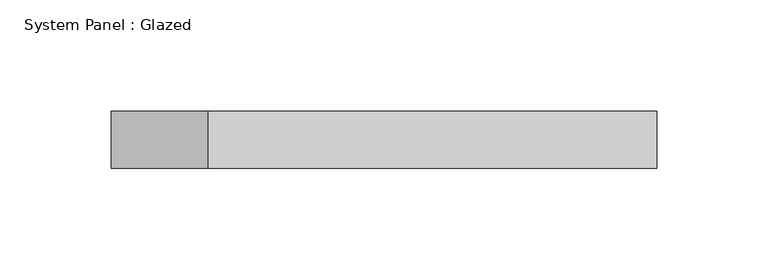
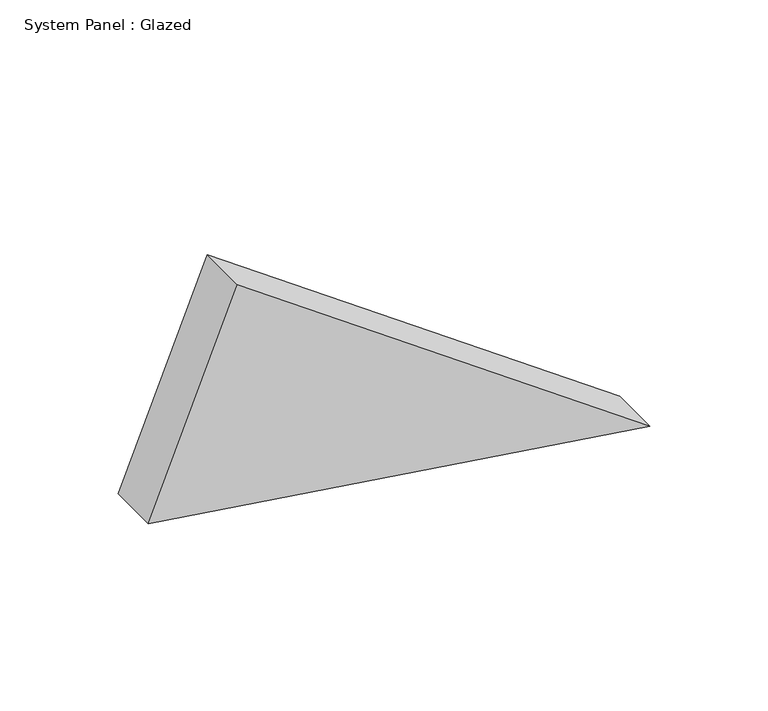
"""IFC4 building model written with IfcOpenShell, lengths in millimetres: plate geometry, System Panel : Glazed."""

import ifcopenshell
import ifcopenshell.guid

model = None  # the IFC model being written
_history = None  # IfcOwnerHistory: only IFC2X3 demands one
_inside = {}  # id of a spatial element -> (the spatial element, [elements in it])
_under = {}  # id of a project, library or spatial element -> (it, [spatial elements below it])
_declared = {}  # id of a project -> (the project, [libraries it declares])
_typed = {}  # id of a type object -> (the type object, [elements of that type])
_made_of = {}  # id of a material, layer set ... -> (it, [elements and type objects made of it])


def new_model(schema):
    """Start an empty IFC model of exactly this schema.

    Asked for "IFC4X3", IfcOpenShell would pick the latest addendum, in which some entities
    have other attributes; the version numbers below select the first issue.
    IFC2X3 requires an IfcOwnerHistory on every rooted entity: one is made here for all.
    """
    global model, _history
    if schema == "IFC4X3":
        model = ifcopenshell.file(schema_version=(4, 3, 0, 0))
    else:
        model = ifcopenshell.file(schema=schema)
    _inside.clear()
    _under.clear()
    _declared.clear()
    _typed.clear()
    _made_of.clear()
    _history = None
    if model.schema == "IFC2X3":
        org = make("IfcOrganization", Name="unknown")
        user = make(
            "IfcPersonAndOrganization",
            ThePerson=make("IfcPerson", FamilyName="unknown"),
            TheOrganization=org,
        )
        app = make(
            "IfcApplication",
            ApplicationDeveloper=org,
            Version="unknown",
            ApplicationFullName="unknown",
            ApplicationIdentifier="unknown",
        )
        _history = make(
            "IfcOwnerHistory",
            OwningUser=user,
            OwningApplication=app,
            ChangeAction="ADDED",
            CreationDate=0,
        )
    return model


def make(cls, **values):
    """One entity of the class cls with the attributes given. An attribute that is None is left unset."""
    return model.create_entity(
        cls, **{name: value for name, value in values.items() if value is not None}
    )


def rooted(cls, **values):
    """An entity with a GlobalId (a new one), such as an element, a storey or a relation."""
    return make(cls, GlobalId=ifcopenshell.guid.new(), OwnerHistory=_history, **values)


def si_unit(unit_type, name, prefix=None):
    """IfcSIUnit, for example si_unit("LENGTHUNIT", "METRE", prefix="MILLI")."""
    return make("IfcSIUnit", UnitType=unit_type, Prefix=prefix, Name=name)


def assignment(units):
    """IfcUnitAssignment: the units of a project."""
    return None if units is None else make("IfcUnitAssignment", Units=units)


def point(xyz):
    """IfcCartesianPoint."""
    return None if xyz is None else make("IfcCartesianPoint", Coordinates=xyz)


def direction(xyz):
    """IfcDirection."""
    return None if xyz is None else make("IfcDirection", DirectionRatios=xyz)


def frame(location, z_axis=None, x_axis=None):
    """IfcAxis2Placement3D, a coordinate frame: its origin and axes. An axis left out is left unset."""
    return make(
        "IfcAxis2Placement3D",
        Location=point(location),
        Axis=direction(z_axis),
        RefDirection=direction(x_axis),
    )


def origin():
    """The frame at (0, 0, 0) with its axes left unset."""
    return frame((0.0, 0.0, 0.0))


def place(relative_to, where):
    """IfcLocalPlacement: puts the frame where relative to a parent placement (None: the world)."""
    return make(
        "IfcLocalPlacement", PlacementRelTo=relative_to, RelativePlacement=where
    )


def context(
    kind, dimensions, precision=None, world=None, true_north=None, identifier=None
):
    """IfcGeometricRepresentationContext, for example the 3D "Model" context."""
    return make(
        "IfcGeometricRepresentationContext",
        ContextIdentifier=identifier,
        ContextType=kind,
        CoordinateSpaceDimension=dimensions,
        Precision=precision,
        WorldCoordinateSystem=world,
        TrueNorth=true_north,
    )


def project(units=None, contexts=None):
    """IfcProject with its units and contexts."""
    return rooted(
        "IfcProject",
        Name="project",
        RepresentationContexts=contexts,
        UnitsInContext=assignment(units),
    )


def spatial(cls, under=None, at=None, **own):
    """A site, building, storey or space (cls), placed at a placement, below another one or the project."""
    s = rooted(cls, ObjectPlacement=at, **own)
    if under is not None:
        _under.setdefault(under.id(), (under, []))[1].append(s)
    return s


def polyline(points):
    """IfcPolyline through the points."""
    return make("IfcPolyline", Points=[point(p) for p in points])


def outline(outer, holes=None, kind="AREA"):
    """IfcArbitraryClosedProfileDef: a profile drawn as a closed curve; with holes, ...WithVoids."""
    if holes is None:
        return make("IfcArbitraryClosedProfileDef", ProfileType=kind, OuterCurve=outer)
    return make(
        "IfcArbitraryProfileDefWithVoids",
        ProfileType=kind,
        OuterCurve=outer,
        InnerCurves=holes,
    )


def extrude(swept, where, along, depth):
    """IfcExtrudedAreaSolid: the profile swept, set in the frame where, extruded along a direction by depth."""
    return make(
        "IfcExtrudedAreaSolid",
        SweptArea=swept,
        Position=where,
        ExtrudedDirection=direction(along),
        Depth=depth,
    )


def shape(context_of_items, identifier, shape_type, items):
    """IfcShapeRepresentation: the items that make up one representation, for example the "Body"."""
    return make(
        "IfcShapeRepresentation",
        ContextOfItems=context_of_items,
        RepresentationIdentifier=identifier,
        RepresentationType=shape_type,
        Items=items,
    )


def source(mapping_origin, context_of_items, identifier, shape_type, items):
    """IfcRepresentationMap: a shape defined once, which mapped items show again and again."""
    return make(
        "IfcRepresentationMap",
        MappingOrigin=mapping_origin,
        MappedRepresentation=shape(context_of_items, identifier, shape_type, items),
    )


def transform(
    local_origin,
    x_axis=None,
    y_axis=None,
    z_axis=None,
    scale=None,
    scale2=None,
    scale3=None,
    uniform=True,
):
    """IfcCartesianTransformationOperator3D, or its non-uniform kind. x_axis, y_axis, z_axis: its Axis1, 2, 3."""
    if uniform:
        return make(
            "IfcCartesianTransformationOperator3D",
            Axis1=direction(x_axis),
            Axis2=direction(y_axis),
            LocalOrigin=point(local_origin),
            Scale=scale,
            Axis3=direction(z_axis),
        )
    return make(
        "IfcCartesianTransformationOperator3DnonUniform",
        Axis1=direction(x_axis),
        Axis2=direction(y_axis),
        LocalOrigin=point(local_origin),
        Scale=scale,
        Axis3=direction(z_axis),
        Scale2=scale2,
        Scale3=scale3,
    )


def mapped(mapping_source, mapping_target):
    """IfcMappedItem: shows the shape of a source again, moved by a transform."""
    return make(
        "IfcMappedItem", MappingSource=mapping_source, MappingTarget=mapping_target
    )


def made_of(thing, what):
    """Note that an element or type object is made of a material, layer set ...; save() writes the relation."""
    if what is not None:
        _made_of.setdefault(what.id(), (what, []))[1].append(thing)
    return thing


def element(
    cls,
    number,
    at=None,
    inside=None,
    cuts=None,
    type_object=None,
    material=None,
    context=None,
    identifier="Body",
    shape_type=None,
    held_by="IfcProductDefinitionShape",
    body=None,
    shapes=None,
    **own,
):
    """One element of the class cls, such as IfcWall. Its Tag is "e" and its number.

    at: its placement. inside: the storey or other place that contains it. cuts: it is an
    opening in that element (IfcRelVoidsElement). A single representation is given by context,
    identifier, shape_type and body (its items); several are given by shapes. held_by: the class
    of the entity that holds the representations. save() writes the other relations.
    """
    e = rooted(cls, Tag="e%d" % number, ObjectPlacement=at, **own)
    if body is not None:
        shapes = [shape(context, identifier, shape_type, body)]
    if shapes is not None:
        e.Representation = make(held_by, Representations=shapes)
    if inside is not None:
        _inside.setdefault(inside.id(), (inside, []))[1].append(e)
    if cuts is not None:
        rooted(
            "IfcRelVoidsElement", RelatingBuildingElement=cuts, RelatedOpeningElement=e
        )
    if type_object is not None:
        _typed.setdefault(type_object.id(), (type_object, []))[1].append(e)
    return made_of(e, material)


def aggregate(whole, parts):
    """IfcRelAggregates: a whole, such as a stair, and the parts it consists of."""
    return rooted("IfcRelAggregates", RelatingObject=whole, RelatedObjects=parts)


def save(model, path):
    """Write the relations noted so far, then the file.

    IfcRelAggregates (storeys below a building ...), IfcRelContainedInSpatialStructure (elements
    in a storey), IfcRelDefinesByType, IfcRelAssociatesMaterial and IfcRelDeclares: one each for
    every whole, place, type object, material and project.
    """
    for whole, parts in _under.values():
        aggregate(whole, parts)
    for where, things in _inside.values():
        rooted(
            "IfcRelContainedInSpatialStructure",
            RelatedElements=things,
            RelatingStructure=where,
        )
    for kind, things in _typed.values():
        rooted("IfcRelDefinesByType", RelatedObjects=things, RelatingType=kind)
    for what, things in _made_of.values():
        rooted("IfcRelAssociatesMaterial", RelatedObjects=things, RelatingMaterial=what)
    for by, libraries in _declared.values():
        rooted("IfcRelDeclares", RelatingContext=by, RelatedDefinitions=libraries)
    model.write(path)


def system_panel_glazed_f80f2cad(model_context):
    return source(origin(), model_context, "Body", "SweptSolid", [
        extrude(outline(polyline([(35.3430569, -122.2876136), (0.0, 122.2876136), (143.402438, -78.9632602), (35.3430569, -122.2876136)])), frame((0.0, -44.45, 0.0), z_axis=(0.0, 1.0, 0.0), x_axis=(0.0, 0.0, 1.0)), (0.0, 0.0, 1.0), 25.4),
    ])


if __name__ == "__main__":
    model = new_model("IFC4")
    model_context = context("Model", 3, world=origin())
    ifc_project = project(units=[si_unit("LENGTHUNIT", "METRE", prefix="MILLI")], contexts=[model_context])
    site = spatial("IfcSite", under=ifc_project)
    building = spatial("IfcBuilding", under=site)
    placement = place(None, origin())
    system_panel_glazed_shape = system_panel_glazed_f80f2cad(model_context)
    element("IfcPlate", 1, ObjectType="System Panel : Glazed", at=placement, inside=building, context=model_context, shape_type="MappedRepresentation", body=[
        mapped(system_panel_glazed_shape, transform((0.0, 0.0, 0.0), x_axis=(1.0, 0.0, 0.0), y_axis=(0.0, 1.0, 0.0), z_axis=(0.0, 0.0, 1.0))),
    ])
    save(model, "model.ifc")
